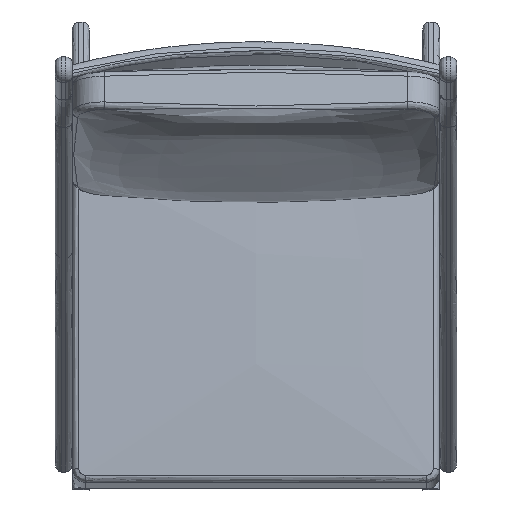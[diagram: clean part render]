
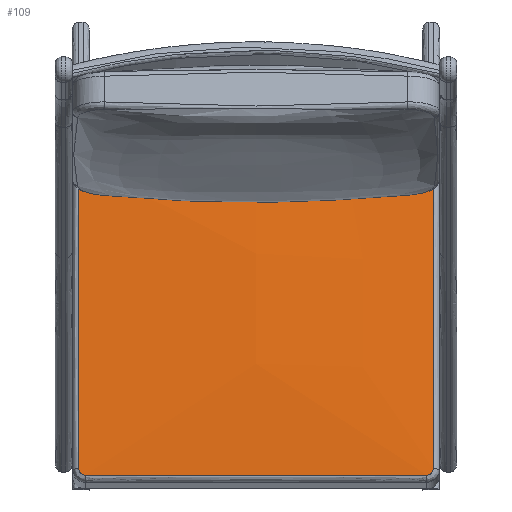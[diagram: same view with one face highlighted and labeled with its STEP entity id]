
A CAD part, top view. The second image highlights one B-rep face of the part: STEP entity #109.
In plain terms, the highlighted free-form (B-spline) face has degree [3, 3] with [4, 7] control points.
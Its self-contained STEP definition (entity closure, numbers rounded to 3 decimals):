
#109=ADVANCED_FACE('',(#391),#4387,.T.);
#391=FACE_OUTER_BOUND('',#673,.T.);
#673=EDGE_LOOP('',(#1106,#1107,#1108,#1109,#1110,#1111,#1112,#1113));
#1106=ORIENTED_EDGE('',*,*,#2464,.F.);
#1107=ORIENTED_EDGE('',*,*,#2461,.F.);
#1108=ORIENTED_EDGE('',*,*,#2458,.F.);
#1109=ORIENTED_EDGE('',*,*,#2443,.F.);
#1110=ORIENTED_EDGE('',*,*,#2440,.F.);
#1111=ORIENTED_EDGE('',*,*,#2476,.F.);
#1112=ORIENTED_EDGE('',*,*,#2474,.F.);
#1113=ORIENTED_EDGE('',*,*,#2471,.F.);
#2440=EDGE_CURVE('',#3839,#3838,#3452,.T.);
#2443=EDGE_CURVE('',#3838,#3840,#3455,.T.);
#2458=EDGE_CURVE('',#3840,#3849,#3463,.T.);
#2461=EDGE_CURVE('',#3849,#3848,#3466,.T.);
#2464=EDGE_CURVE('',#3848,#3847,#3469,.T.);
#2471=EDGE_CURVE('',#3847,#3854,#3472,.T.);
#2474=EDGE_CURVE('',#3854,#3855,#3475,.T.);
#2476=EDGE_CURVE('',#3855,#3839,#3477,.T.);
#3452=B_SPLINE_CURVE_WITH_KNOTS('',3,(#7852,#7853,#7854,#7855,#7856),
 .UNSPECIFIED.,.F.,.F.,(4,1,4),(-47.513,-27.15,0.),
 .UNSPECIFIED.);
#3455=B_SPLINE_CURVE_WITH_KNOTS('',3,(#7870,#7871,#7872,#7873,#7874,#7875,
#7876),.UNSPECIFIED.,.F.,.F.,(4,1,1,1,4),(-1.571,-1.122,
-0.673,-0.224,0.),
 .UNSPECIFIED.);
#3463=B_SPLINE_CURVE_WITH_KNOTS('',3,(#7917,#7918,#7919,#7920,#7921),
 .UNSPECIFIED.,.F.,.F.,(4,1,4),(-54.,-27.,0.),
 .UNSPECIFIED.);
#3466=B_SPLINE_CURVE_WITH_KNOTS('',3,(#7935,#7936,#7937,#7938,#7939,#7940,
#7941),.UNSPECIFIED.,.F.,.F.,(4,1,1,1,4),(-1.571,-1.122,
-0.673,-0.449,0.),.UNSPECIFIED.);
#3469=B_SPLINE_CURVE_WITH_KNOTS('',3,(#7953,#7954,#7955,#7956,#7957),
 .UNSPECIFIED.,.F.,.F.,(4,1,4),(-47.513,-20.363,0.),
 .UNSPECIFIED.);
#3472=B_SPLINE_CURVE_WITH_KNOTS('',3,(#7982,#7983,#7984,#7985,#7986,#7987),
 .UNSPECIFIED.,.F.,.F.,(4,1,1,4),(-1.329,-0.95,-0.57,
0.),.UNSPECIFIED.);
#3475=B_SPLINE_CURVE_WITH_KNOTS('',3,(#8001,#8002,#8003,#8004,#8005,#8006,
#8007),.UNSPECIFIED.,.F.,.F.,(4,1,1,1,4),(-55.01,-41.257,
-27.505,-13.752,0.),.UNSPECIFIED.);
#3477=B_SPLINE_CURVE_WITH_KNOTS('',3,(#8014,#8015,#8016,#8017,#8018,#8019),
 .UNSPECIFIED.,.F.,.F.,(4,1,1,4),(-1.329,-0.95,-0.57,
0.),.UNSPECIFIED.);
#3838=VERTEX_POINT('',#7776);
#3839=VERTEX_POINT('',#7777);
#3840=VERTEX_POINT('',#7778);
#3847=VERTEX_POINT('',#7785);
#3848=VERTEX_POINT('',#7786);
#3849=VERTEX_POINT('',#7787);
#3854=VERTEX_POINT('',#7792);
#3855=VERTEX_POINT('',#7793);
#4387=B_SPLINE_SURFACE_WITH_KNOTS('',3,3,((#7486,#7487,#7488,#7489,#7490,
#7491,#7492),(#7493,#7494,#7495,#7496,#7497,#7498,#7499),(#7500,#7501,#7502,
#7503,#7504,#7505,#7506),(#7507,#7508,#7509,#7510,#7511,#7512,#7513)),
 .UNSPECIFIED.,.F.,.F.,.F.,(4,4),(4,1,2,4),(0.017,0.983),
(0.017,0.21,0.5,0.983),
 .UNSPECIFIED.);
#7486=CARTESIAN_POINT('',(280.338,-370.23,428.711));
#7487=CARTESIAN_POINT('',(242.971,-370.055,428.778));
#7488=CARTESIAN_POINT('',(149.537,-369.677,429.028));
#7489=CARTESIAN_POINT('',(56.076,-369.506,429.256));
#7490=CARTESIAN_POINT('',(-93.46,-369.505,429.256));
#7491=CARTESIAN_POINT('',(-186.922,-369.792,428.878));
#7492=CARTESIAN_POINT('',(-280.338,-370.23,428.711));
#7493=CARTESIAN_POINT('',(280.357,-206.619,405.435));
#7494=CARTESIAN_POINT('',(243.217,-203.307,406.771));
#7495=CARTESIAN_POINT('',(150.,-196.367,411.788));
#7496=CARTESIAN_POINT('',(56.241,-193.412,416.309));
#7497=CARTESIAN_POINT('',(-93.735,-193.411,416.309));
#7498=CARTESIAN_POINT('',(-187.509,-198.338,408.774));
#7499=CARTESIAN_POINT('',(-280.357,-206.619,405.435));
#7500=CARTESIAN_POINT('',(280.42,-43.04,381.732));
#7501=CARTESIAN_POINT('',(243.517,-36.714,382.63));
#7502=CARTESIAN_POINT('',(150.524,-23.607,386.754));
#7503=CARTESIAN_POINT('',(56.438,-18.235,390.925));
#7504=CARTESIAN_POINT('',(-94.064,-18.224,390.923));
#7505=CARTESIAN_POINT('',(-188.162,-27.226,383.979));
#7506=CARTESIAN_POINT('',(-280.42,-43.04,381.732));
#7507=CARTESIAN_POINT('',(280.53,120.448,357.608));
#7508=CARTESIAN_POINT('',(243.87,129.422,356.4));
#7509=CARTESIAN_POINT('',(151.105,147.468,354.09));
#7510=CARTESIAN_POINT('',(56.664,154.29,353.354));
#7511=CARTESIAN_POINT('',(-94.44,154.302,353.352));
#7512=CARTESIAN_POINT('',(-188.88,142.882,354.587));
#7513=CARTESIAN_POINT('',(-280.53,120.448,357.608));
#7776=CARTESIAN_POINT('',(280.055,-359.025,427.118));
#7777=CARTESIAN_POINT('',(280.057,111.243,358.969));
#7778=CARTESIAN_POINT('',(270.029,-368.95,428.559));
#7785=CARTESIAN_POINT('',(-280.057,111.243,358.969));
#7786=CARTESIAN_POINT('',(-280.055,-359.025,427.118));
#7787=CARTESIAN_POINT('',(-270.029,-368.95,428.559));
#7792=CARTESIAN_POINT('',(-272.431,120.875,357.575));
#7793=CARTESIAN_POINT('',(272.431,120.875,357.575));
#7852=CARTESIAN_POINT('',(280.057,111.243,358.969));
#7853=CARTESIAN_POINT('',(280.238,44.086,368.879));
#7854=CARTESIAN_POINT('',(280.475,-112.639,391.803));
#7855=CARTESIAN_POINT('',(280.293,-269.417,414.365));
#7856=CARTESIAN_POINT('',(280.055,-359.025,427.118));
#7870=CARTESIAN_POINT('',(280.055,-359.025,427.118));
#7871=CARTESIAN_POINT('',(280.051,-360.506,427.329));
#7872=CARTESIAN_POINT('',(279.36,-363.468,427.754));
#7873=CARTESIAN_POINT('',(276.482,-367.039,428.271));
#7874=CARTESIAN_POINT('',(273.022,-368.694,428.514));
#7875=CARTESIAN_POINT('',(270.777,-368.948,428.556));
#7876=CARTESIAN_POINT('',(270.029,-368.95,428.559));
#7917=CARTESIAN_POINT('',(270.029,-368.95,428.559));
#7918=CARTESIAN_POINT('',(180.039,-369.168,428.853));
#7919=CARTESIAN_POINT('',(0.,-369.843,429.663));
#7920=CARTESIAN_POINT('',(-180.039,-369.168,428.853));
#7921=CARTESIAN_POINT('',(-270.029,-368.95,428.559));
#7935=CARTESIAN_POINT('',(-270.029,-368.95,428.559));
#7936=CARTESIAN_POINT('',(-271.525,-368.946,428.554));
#7937=CARTESIAN_POINT('',(-274.518,-368.262,428.45));
#7938=CARTESIAN_POINT('',(-277.52,-365.887,428.104));
#7939=CARTESIAN_POINT('',(-279.53,-362.726,427.648));
#7940=CARTESIAN_POINT('',(-280.051,-360.506,427.329));
#7941=CARTESIAN_POINT('',(-280.055,-359.025,427.118));
#7953=CARTESIAN_POINT('',(-280.055,-359.025,427.118));
#7954=CARTESIAN_POINT('',(-280.293,-269.417,414.365));
#7955=CARTESIAN_POINT('',(-280.475,-112.639,391.803));
#7956=CARTESIAN_POINT('',(-280.238,44.086,368.879));
#7957=CARTESIAN_POINT('',(-280.057,111.243,358.969));
#7982=CARTESIAN_POINT('',(-280.057,111.243,358.969));
#7983=CARTESIAN_POINT('',(-280.054,112.496,358.784));
#7984=CARTESIAN_POINT('',(-279.56,115.,358.417));
#7985=CARTESIAN_POINT('',(-277.121,118.771,357.87));
#7986=CARTESIAN_POINT('',(-274.274,120.42,357.635));
#7987=CARTESIAN_POINT('',(-272.431,120.875,357.575));
#8001=CARTESIAN_POINT('',(-272.431,120.875,357.575));
#8002=CARTESIAN_POINT('',(-227.952,131.861,356.117));
#8003=CARTESIAN_POINT('',(-137.64,148.592,354.012));
#8004=CARTESIAN_POINT('',(0.,157.141,353.024));
#8005=CARTESIAN_POINT('',(137.64,148.592,354.012));
#8006=CARTESIAN_POINT('',(227.952,131.861,356.117));
#8007=CARTESIAN_POINT('',(272.431,120.875,357.575));
#8014=CARTESIAN_POINT('',(272.431,120.875,357.575));
#8015=CARTESIAN_POINT('',(273.66,120.572,357.615));
#8016=CARTESIAN_POINT('',(275.999,119.497,357.766));
#8017=CARTESIAN_POINT('',(279.116,116.251,358.235));
#8018=CARTESIAN_POINT('',(280.052,113.122,358.692));
#8019=CARTESIAN_POINT('',(280.057,111.243,358.969));
